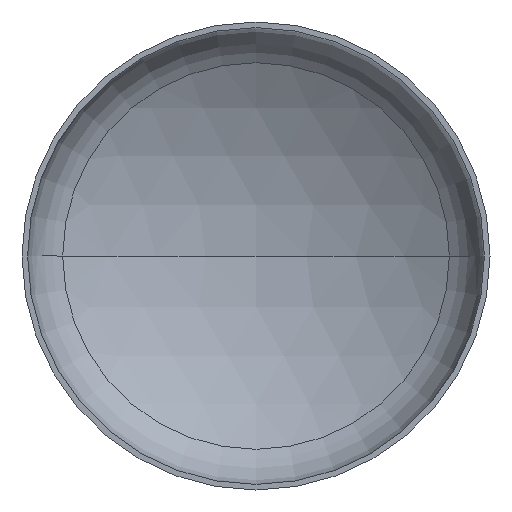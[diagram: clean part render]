
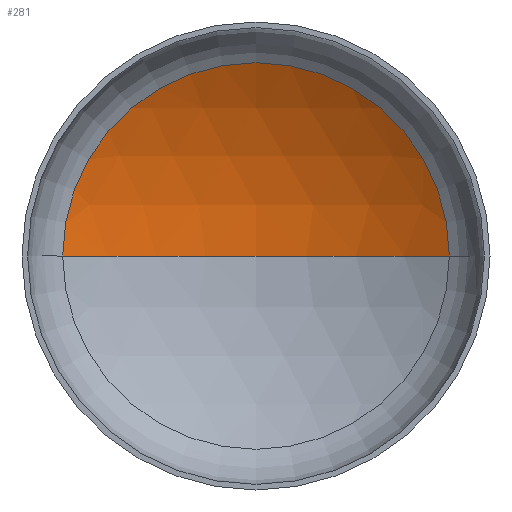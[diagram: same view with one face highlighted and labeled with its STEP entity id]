
A CAD part, front view. The second image highlights one B-rep face of the part: STEP entity #281.
In plain terms, the highlighted spherical face has radius 800 mm.
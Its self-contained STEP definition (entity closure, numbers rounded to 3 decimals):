
#7 = DIRECTION ( 'NONE',  ( 0., 0., -1. ) ) ;
#11 = VERTEX_POINT ( 'NONE', #298 ) ;
#12 = AXIS2_PLACEMENT_3D ( 'NONE', #179, #56, #387 ) ;
#19 = CARTESIAN_POINT ( 'NONE',  ( 0., -512.391, 0. ) ) ;
#26 = EDGE_LOOP ( 'NONE', ( #111, #72, #90 ) ) ;
#28 = AXIS2_PLACEMENT_3D ( 'NONE', #198, #199, #216 ) ;
#33 = AXIS2_PLACEMENT_3D ( 'NONE', #19, #7, #399 ) ;
#37 = AXIS2_PLACEMENT_3D ( 'NONE', #210, #207, #209 ) ;
#56 = DIRECTION ( 'NONE',  ( 0., 0., -1. ) ) ;
#72 = ORIENTED_EDGE ( 'NONE', *, *, #131, .T. ) ;
#88 = EDGE_CURVE ( 'NONE', #102, #115, #389, .T. ) ;
#90 = ORIENTED_EDGE ( 'NONE', *, *, #88, .T. ) ;
#102 = VERTEX_POINT ( 'NONE', #195 ) ;
#111 = ORIENTED_EDGE ( 'NONE', *, *, #152, .F. ) ;
#115 = VERTEX_POINT ( 'NONE', #188 ) ;
#131 = EDGE_CURVE ( 'NONE', #11, #102, #142, .T. ) ;
#142 = CIRCLE ( 'NONE', #33, 800. ) ;
#152 = EDGE_CURVE ( 'NONE', #11, #115, #381, .T. ) ;
#177 = FACE_OUTER_BOUND ( 'NONE', #26, .T. ) ;
#179 = CARTESIAN_POINT ( 'NONE',  ( 0., -512.391, 0. ) ) ;
#188 = CARTESIAN_POINT ( 'NONE',  ( -413.023, 172.745, 0. ) ) ;
#195 = CARTESIAN_POINT ( 'NONE',  ( 413.023, 172.745, 0. ) ) ;
#198 = CARTESIAN_POINT ( 'NONE',  ( 0., -512.391, 0. ) ) ;
#199 = DIRECTION ( 'NONE',  ( 0., 0., 1. ) ) ;
#207 = DIRECTION ( 'NONE',  ( 0., -1., 0. ) ) ;
#209 = DIRECTION ( 'NONE',  ( 1., 0., 0. ) ) ;
#210 = CARTESIAN_POINT ( 'NONE',  ( 0., 172.745, 0. ) ) ;
#216 = DIRECTION ( 'NONE',  ( 1., 0., 0. ) ) ;
#281 = ADVANCED_FACE ( 'NONE', ( #177 ), #372, .F. ) ;
#298 = CARTESIAN_POINT ( 'NONE',  ( 0., 287.609, 0. ) ) ;
#372 = SPHERICAL_SURFACE ( 'NONE', #12, 800. ) ;
#381 = CIRCLE ( 'NONE', #28, 800. ) ;
#387 = DIRECTION ( 'NONE',  ( -1., 0., 0. ) ) ;
#389 = CIRCLE ( 'NONE', #37, 413.023 ) ;
#399 = DIRECTION ( 'NONE',  ( -1., 0., 0. ) ) ;
